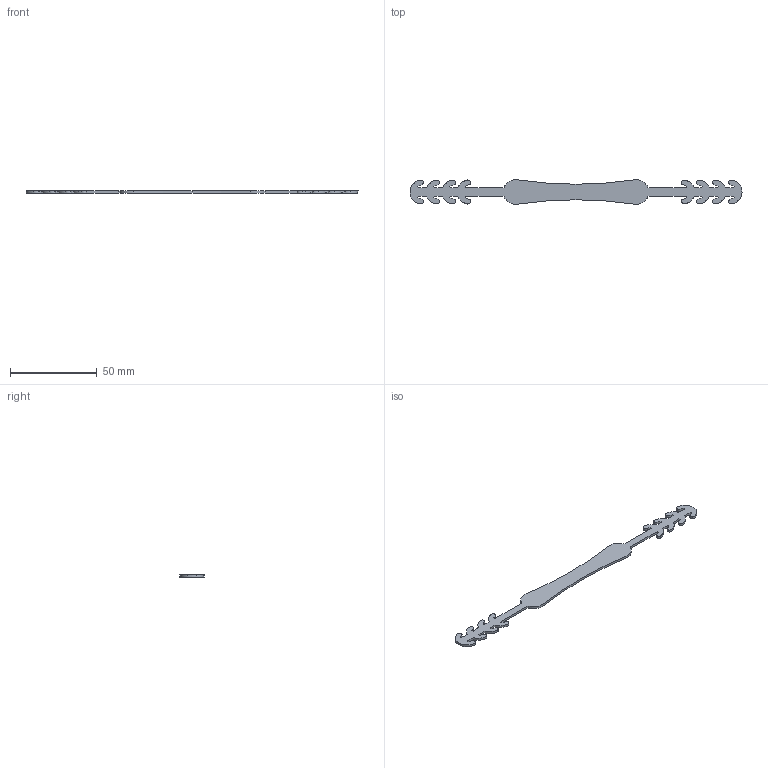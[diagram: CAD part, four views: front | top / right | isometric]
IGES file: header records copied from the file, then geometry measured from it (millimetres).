
Global section: file name: mask extenders v3; native system: unknown; preprocessor: unknown; author: unknown; organization: unknown; date: 20200331.114640; units: inch
Bounding box: 191.74 x 14.3 x 1.38 mm (x, y, z)
Volume: 2390.7 mm3; surface area: 4254.2 mm2
Topology: 1 solids, 1 shells, 156 faces, 462 edges, 308 vertices
Faces by surface type: bspline 156
